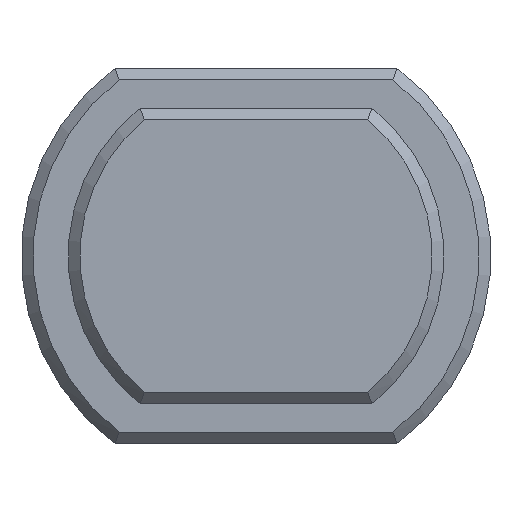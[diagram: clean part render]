
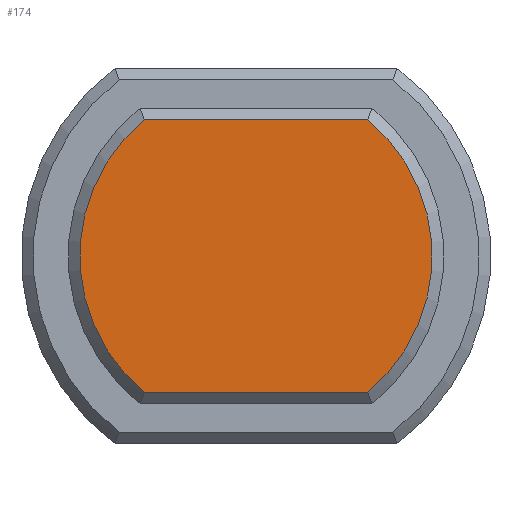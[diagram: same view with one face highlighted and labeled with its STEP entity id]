
A CAD part, front view. The second image highlights one B-rep face of the part: STEP entity #174.
In plain terms, the highlighted planar face has unit normal (0, -1, 0).
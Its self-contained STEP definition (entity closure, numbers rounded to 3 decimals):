
#6 = CARTESIAN_POINT ( 'NONE',  ( 0., -7., 0. ) ) ;
#62 = VERTEX_POINT ( 'NONE', #713 ) ;
#69 = VECTOR ( 'NONE', #483, 1000. ) ;
#74 = EDGE_CURVE ( 'NONE', #774, #149, #874, .T. ) ;
#88 = AXIS2_PLACEMENT_3D ( 'NONE', #265, #884, #971 ) ;
#92 = DIRECTION ( 'NONE',  ( 0., -1., 0. ) ) ;
#116 = EDGE_CURVE ( 'NONE', #149, #605, #175, .T. ) ;
#129 = FACE_OUTER_BOUND ( 'NONE', #751, .T. ) ;
#149 = VERTEX_POINT ( 'NONE', #502 ) ;
#169 = AXIS2_PLACEMENT_3D ( 'NONE', #658, #721, #649 ) ;
#174 = ADVANCED_FACE ( 'NONE', ( #129 ), #182, .F. ) ;
#175 = LINE ( 'NONE', #930, #69 ) ;
#182 = PLANE ( 'NONE',  #169 ) ;
#265 = CARTESIAN_POINT ( 'NONE',  ( 0., -7., 0. ) ) ;
#266 = EDGE_CURVE ( 'NONE', #605, #62, #377, .T. ) ;
#276 = EDGE_CURVE ( 'NONE', #62, #774, #1003, .T. ) ;
#377 = CIRCLE ( 'NONE', #88, 3.75 ) ;
#380 = CARTESIAN_POINT ( 'NONE',  ( -2.465, -7., 2.9 ) ) ;
#396 = DIRECTION ( 'NONE',  ( 0., 0., 1. ) ) ;
#442 = AXIS2_PLACEMENT_3D ( 'NONE', #6, #92, #396 ) ;
#483 = DIRECTION ( 'NONE',  ( 1., 0., 0. ) ) ;
#497 = CARTESIAN_POINT ( 'NONE',  ( -2.377, -7., 2.9 ) ) ;
#502 = CARTESIAN_POINT ( 'NONE',  ( -2.377, -7., -2.9 ) ) ;
#533 = DIRECTION ( 'NONE',  ( -1., 0., 0. ) ) ;
#605 = VERTEX_POINT ( 'NONE', #848 ) ;
#636 = ORIENTED_EDGE ( 'NONE', *, *, #266, .T. ) ;
#649 = DIRECTION ( 'NONE',  ( 0., 0., 1. ) ) ;
#658 = CARTESIAN_POINT ( 'NONE',  ( 0., -7., 0. ) ) ;
#665 = VECTOR ( 'NONE', #533, 1000. ) ;
#687 = ORIENTED_EDGE ( 'NONE', *, *, #74, .T. ) ;
#693 = ORIENTED_EDGE ( 'NONE', *, *, #276, .T. ) ;
#713 = CARTESIAN_POINT ( 'NONE',  ( 2.377, -7., 2.9 ) ) ;
#721 = DIRECTION ( 'NONE',  ( 0., 1., 0. ) ) ;
#751 = EDGE_LOOP ( 'NONE', ( #636, #693, #687, #914 ) ) ;
#774 = VERTEX_POINT ( 'NONE', #497 ) ;
#848 = CARTESIAN_POINT ( 'NONE',  ( 2.377, -7., -2.9 ) ) ;
#874 = CIRCLE ( 'NONE', #442, 3.75 ) ;
#884 = DIRECTION ( 'NONE',  ( 0., -1., 0. ) ) ;
#914 = ORIENTED_EDGE ( 'NONE', *, *, #116, .T. ) ;
#930 = CARTESIAN_POINT ( 'NONE',  ( 2.465, -7., -2.9 ) ) ;
#971 = DIRECTION ( 'NONE',  ( 0., 0., 1. ) ) ;
#1003 = LINE ( 'NONE', #380, #665 ) ;
